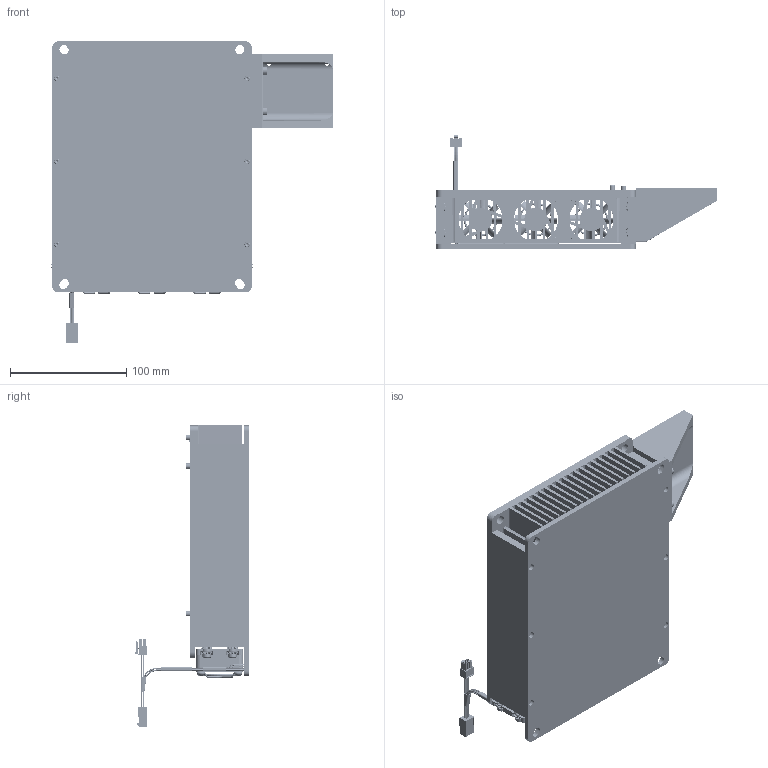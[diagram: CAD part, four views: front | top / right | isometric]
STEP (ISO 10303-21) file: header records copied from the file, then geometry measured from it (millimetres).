
FILE_DESCRIPTION (( 'STEP AP214' ), '1' );
FILE_NAME ('1323285, Heat Sink, Fan-Cooled with Stage Platform Extension, CellX.STEP', '2017-05-31T20:33:10', ( '' ), ( '' ), 'SwSTEP 2.0', 'SolidWorks 2016', '' );
FILE_SCHEMA (( 'AUTOMOTIVE_DESIGN' ));
Length unit declared in the file: inch
Products named in the file (16): 1229368, Ribbed Vibration Daming Grommet, PVC, 9311K138; Fan Plate, Gemini Heat SInk, 2 Inch Version; socket head cap screw_coherent inch_HX-SHCS 0.112-40x1.75x1-SSSPL; Top Plate, Gemini Heat Sink, 2 Inch Version; Bottom Plate, Gemini Heat Sink, 2 Inch Version; socket head cap screw_coherent metric_B18.3.1M - 4 x 0.7 x 16 Hex SHCS -- 16SHXSSPL; Gemini Forced Air Heat Sink Assembly 3; 1323285, Heat Sink, Fan-Cooled with Stage Platform Extension, CellX; Fan Wire Bundle Inverted, Gemini Heat Sink; 6 Pin Female Connector, 43020-0601; 6-PIN MALE CONNECTOR 43025-0600_01 - (Default); 1317840, Objective Accessory Bracket, Gemini Heat Sink; Screw, Machine, Truss Head, Cross Recessed Drive, 4-40 x .750 In L, SS, 91770A113_91770A113; Fan Guard, For 40mm Fan, Nickel Plated Steel, 19155K91_19155K91; Fan, DC 12V, 40mm x 40mm x 15mm, 14.8CFM, AFB0412SHB; 1182502, Screw, Shoulder, Phillips Drive, .156 D x .25L, 6-32, SS, 94045A525_94045A525
Assembly tree (45 placements, depth 3):
  1323285, Heat Sink, Fan-Cooled with Stage Platform Extension, CellX
    Gemini Forced Air Heat Sink Assembly 3
      Bottom Plate, Gemini Heat Sink, 2 Inch Version
      Top Plate, Gemini Heat Sink, 2 Inch Version
      socket head cap screw_coherent inch_HX-SHCS 0.112-40x1.75x1-SSSPL  x6
      Fan Plate, Gemini Heat SInk, 2 Inch Version
      1229368, Ribbed Vibration Daming Grommet, PVC, 9311K138  x4
      1182502, Screw, Shoulder, Phillips Drive, .156 D x .25L, 6-32, SS, 94045A525_94045A525  x4
      Fan, DC 12V, 40mm x 40mm x 15mm, 14.8CFM, AFB0412SHB  x3
      Fan Guard, For 40mm Fan, Nickel Plated Steel, 19155K91_19155K91  x3
      Screw, Machine, Truss Head, Cross Recessed Drive, 4-40 x .750 In L, SS, 91770A113_91770A113  x12
      1317840, Objective Accessory Bracket, Gemini Heat Sink
      6-PIN MALE CONNECTOR 43025-0600_01 - (Default)
      6 Pin Female Connector, 43020-0601
      Fan Wire Bundle Inverted, Gemini Heat Sink
    1317840, Objective Accessory Bracket, Gemini Heat Sink
    socket head cap screw_coherent metric_B18.3.1M - 4 x 0.7 x 16 Hex SHCS -- 16SHXSSPL  x4
Bounding box: 242.27 x 98.43 x 259.06 mm (x, y, z)
Volume: 1046022.3 mm3; surface area: 591535.3 mm2
Topology: 80 solids, 80 shells, 5550 faces, 14927 edges, 9576 vertices
Faces by surface type: cylinder 2168, cone 1588, plane 1353, torus 371, bspline 46, sphere 24
Entity records: 64684 total; most frequent: CARTESIAN_POINT 16120, DIRECTION 10053, ORIENTED_EDGE 9570, EDGE_CURVE 4785, AXIS2_PLACEMENT_3D 3814, VERTEX_POINT 3101, VECTOR 2425, LINE 2425
